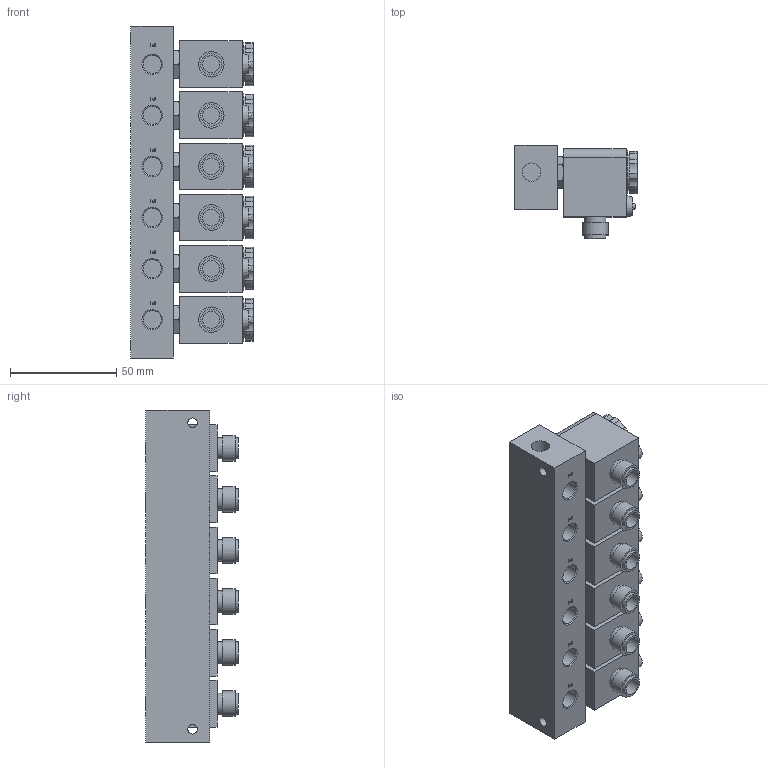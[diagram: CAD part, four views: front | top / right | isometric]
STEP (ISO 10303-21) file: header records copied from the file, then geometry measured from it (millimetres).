
FILE_DESCRIPTION (( 'STEP AP214' ), '1' );
FILE_NAME ('MS-18-310_6-HN-O12_Airtec.step', '2018-12-14T07:45:02', ( '' ), ( '' ), 'SwSTEP 2.0', 'SolidWorks 2010', '' );
FILE_SCHEMA (( 'AUTOMOTIVE_DESIGN' ));
Length unit declared in the file: millimetre
Products named in the file (3): Volumenkörper4; Volumenkörper1; MS-18-310_6-HN-O12_Airtec
Assembly tree (7 placements, depth 2):
  MS-18-310_6-HN-O12_Airtec
    Volumenkörper1  x6
    Volumenkörper4
Bounding box: 57.45 x 43.5 x 156 mm (x, y, z)
Volume: 229174.3 mm3; surface area: 67413 mm2
Topology: 7 solids, 8 shells, 901 faces, 2150 edges, 1400 vertices
Faces by surface type: plane 347, cylinder 289, bspline 156, cone 85, torus 18, sphere 6
Full cylindrical faces by diameter (mm): 1.9 x6, 4.134 x6, 4.5 x2, 6.647 x6, 7.4 x2, 8 x12, 8.1 x6, 8.2 x6, 8.566 x8, 9.04 x12, 10 x12, 10.5 x6, 12 x6, 12.3 x1, 13.2 x6, 17.041 x6, 20.1 x6
Entity records: 29900 total; most frequent: CARTESIAN_POINT 7295, ORIENTED_EDGE 3502, DIRECTION 3249, EDGE_CURVE 1751, AXIS2_PLACEMENT_3D 1251, VERTEX_POINT 1224, EDGE_LOOP 1077, FACE_OUTER_BOUND 915
